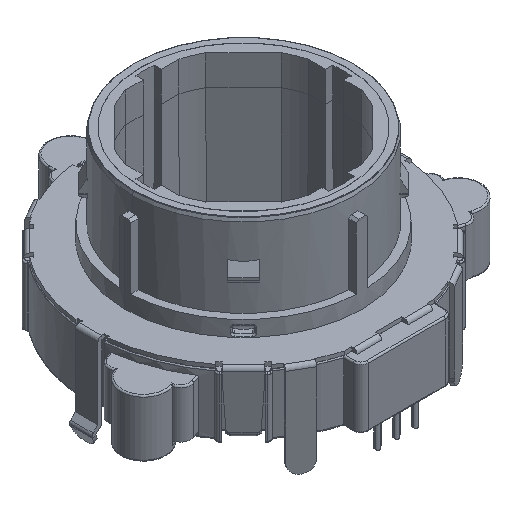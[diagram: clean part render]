
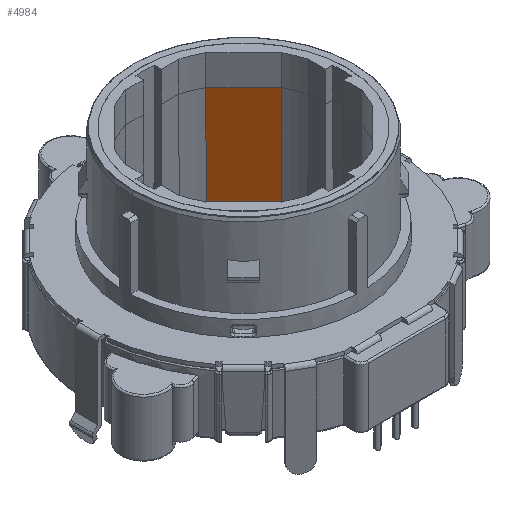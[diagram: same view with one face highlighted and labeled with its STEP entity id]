
A CAD part, isometric view. The second image highlights one B-rep face of the part: STEP entity #4984.
In plain terms, the highlighted planar face has unit normal (-0.707, -0.707, 0.004).
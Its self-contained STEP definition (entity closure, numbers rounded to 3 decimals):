
#933 = VECTOR ( 'NONE', #10376, 1000. ) ;
#2499 = EDGE_CURVE ( 'NONE', #37757, #30231, #21180, .T. ) ;
#3273 = CARTESIAN_POINT ( 'NONE',  ( 6.041, 11.001, 18. ) ) ;
#4116 = DIRECTION ( 'NONE',  ( -0.707, 0.707, 0. ) ) ;
#4454 = CARTESIAN_POINT ( 'NONE',  ( 6.011, 11.03, 18. ) ) ;
#4984 = ADVANCED_FACE ( 'NONE', ( #14521 ), #43725, .T. ) ;
#6156 = LINE ( 'NONE', #21052, #32753 ) ;
#6682 = CARTESIAN_POINT ( 'NONE',  ( 10.961, 6.011, 4. ) ) ;
#9133 = VECTOR ( 'NONE', #28714, 1000. ) ;
#10289 = LINE ( 'NONE', #3273, #9133 ) ;
#10376 = DIRECTION ( 'NONE',  ( 0.003, 0.002, 1. ) ) ;
#10705 = LINE ( 'NONE', #6682, #933 ) ;
#10736 = AXIS2_PLACEMENT_3D ( 'NONE', #43119, #43026, #42967 ) ;
#11026 = EDGE_CURVE ( 'NONE', #14489, #29823, #6156, .T. ) ;
#12923 = ORIENTED_EDGE ( 'NONE', *, *, #40987, .T. ) ;
#14489 = VERTEX_POINT ( 'NONE', #43320 ) ;
#14521 = FACE_OUTER_BOUND ( 'NONE', #22712, .T. ) ;
#20001 = ORIENTED_EDGE ( 'NONE', *, *, #21686, .T. ) ;
#21052 = CARTESIAN_POINT ( 'NONE',  ( 10.961, 6.011, 4. ) ) ;
#21180 = LINE ( 'NONE', #4454, #29616 ) ;
#21686 = EDGE_CURVE ( 'NONE', #30231, #29823, #10289, .T. ) ;
#22712 = EDGE_LOOP ( 'NONE', ( #38119, #20001, #30934, #12923 ) ) ;
#24727 = DIRECTION ( 'NONE',  ( -0.707, 0.707, 0. ) ) ;
#28714 = DIRECTION ( 'NONE',  ( -0.002, -0.003, -1. ) ) ;
#29616 = VECTOR ( 'NONE', #4116, 1000. ) ;
#29823 = VERTEX_POINT ( 'NONE', #33568 ) ;
#30231 = VERTEX_POINT ( 'NONE', #39646 ) ;
#30934 = ORIENTED_EDGE ( 'NONE', *, *, #11026, .F. ) ;
#32753 = VECTOR ( 'NONE', #24727, 1000. ) ;
#33568 = CARTESIAN_POINT ( 'NONE',  ( 6.011, 10.961, 4. ) ) ;
#37757 = VERTEX_POINT ( 'NONE', #42178 ) ;
#38119 = ORIENTED_EDGE ( 'NONE', *, *, #2499, .T. ) ;
#39646 = CARTESIAN_POINT ( 'NONE',  ( 6.041, 11.001, 18. ) ) ;
#40987 = EDGE_CURVE ( 'NONE', #14489, #37757, #10705, .T. ) ;
#42178 = CARTESIAN_POINT ( 'NONE',  ( 11.001, 6.041, 18. ) ) ;
#42967 = DIRECTION ( 'NONE',  ( 0.707, -0.707, 0. ) ) ;
#43026 = DIRECTION ( 'NONE',  ( -0.707, -0.707, 0.003 ) ) ;
#43119 = CARTESIAN_POINT ( 'NONE',  ( 5.976, 10.996, 4. ) ) ;
#43320 = CARTESIAN_POINT ( 'NONE',  ( 10.961, 6.011, 4. ) ) ;
#43725 = PLANE ( 'NONE',  #10736 ) ;
